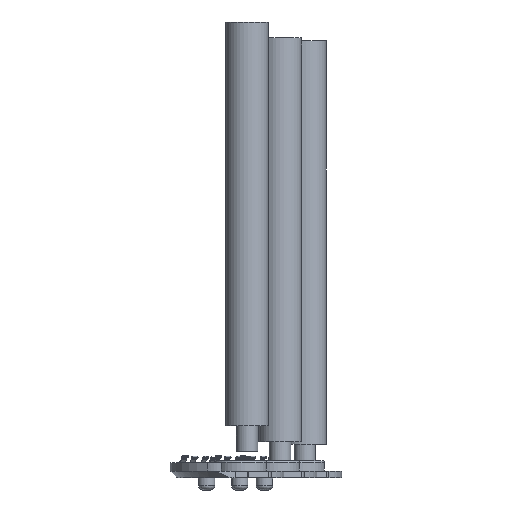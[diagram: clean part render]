
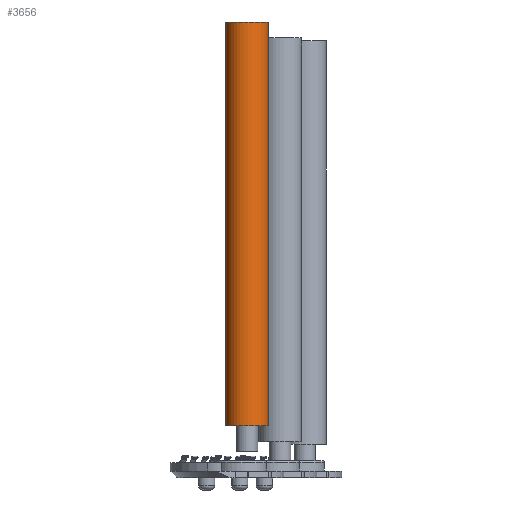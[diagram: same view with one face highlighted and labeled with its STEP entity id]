
A CAD part, left-side view. The second image highlights one B-rep face of the part: STEP entity #3656.
In plain terms, the highlighted cylindrical face has radius 2.5 mm (diameter 5 mm), a full revolution.
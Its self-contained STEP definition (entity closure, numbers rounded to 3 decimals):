
#3556=CARTESIAN_POINT('',(0.,-2.5,0.0));
#3557=VERTEX_POINT('',#3556);
#3558=CARTESIAN_POINT('',(0.,0.0,0.0));
#3559=DIRECTION('',(-1.0,0.0,0.0));
#3560=DIRECTION('',(0.0,-1.0,0.0));
#3561=AXIS2_PLACEMENT_3D('',#3558,#3559,#3560);
#3562=CIRCLE('',#3561,2.5);
#3563=EDGE_CURVE('',#3557,#3557,#3562,.T.);
#3630=CARTESIAN_POINT('',(47.0,-2.5,0.0));
#3631=VERTEX_POINT('',#3630);
#3632=CARTESIAN_POINT('',(47.0,0.0,0.0));
#3633=DIRECTION('',(-1.0,0.0,0.0));
#3634=DIRECTION('',(0.0,-1.0,0.0));
#3635=AXIS2_PLACEMENT_3D('',#3632,#3633,#3634);
#3636=CIRCLE('',#3635,2.5);
#3637=EDGE_CURVE('',#3631,#3631,#3636,.T.);
#3645=CARTESIAN_POINT('',(23.5,0.0,0.0));
#3646=DIRECTION('',(-1.0,0.0,0.0));
#3647=DIRECTION('',(0.0,-1.0,0.0));
#3648=AXIS2_PLACEMENT_3D('',#3645,#3646,#3647);
#3649=CYLINDRICAL_SURFACE('',#3648,2.5);
#3650=ORIENTED_EDGE('',*,*,#3563,.F.);
#3651=EDGE_LOOP('',(#3650));
#3652=FACE_OUTER_BOUND('',#3651,.T.);
#3653=ORIENTED_EDGE('',*,*,#3637,.T.);
#3654=EDGE_LOOP('',(#3653));
#3655=FACE_BOUND('',#3654,.T.);
#3656=ADVANCED_FACE('',(#3652,#3655),#3649,.T.);
